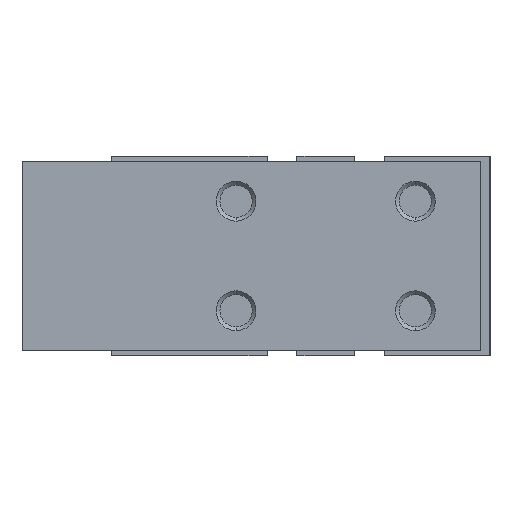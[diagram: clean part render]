
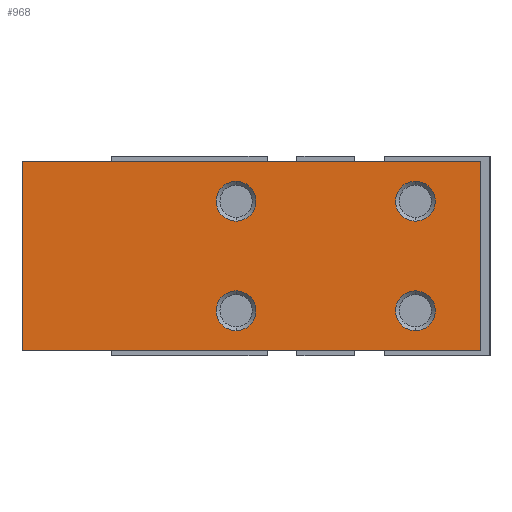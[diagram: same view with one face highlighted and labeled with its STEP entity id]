
A CAD part, left-side view. The second image highlights one B-rep face of the part: STEP entity #968.
In plain terms, the highlighted planar face has unit normal (-1, 0, 0).
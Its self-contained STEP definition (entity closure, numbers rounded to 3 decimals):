
#10 = EDGE_CURVE ( 'NONE', #1490, #4386, #1829, .T. ) ;
#39 = AXIS2_PLACEMENT_3D ( 'NONE', #1302, #2230, #4633 ) ;
#158 = DIRECTION ( 'NONE',  ( -1., 0., 0. ) ) ;
#179 = CARTESIAN_POINT ( 'NONE',  ( -11.5, -15.5, 9.5 ) ) ;
#181 = DIRECTION ( 'NONE',  ( -1., 0., 0. ) ) ;
#219 = EDGE_CURVE ( 'NONE', #2130, #852, #3649, .T. ) ;
#466 = ORIENTED_EDGE ( 'NONE', *, *, #10, .F. ) ;
#548 = CARTESIAN_POINT ( 'NONE',  ( -11.5, 30.5, 9.5 ) ) ;
#583 = CARTESIAN_POINT ( 'NONE',  ( -11.5, 9., 5.5 ) ) ;
#585 = EDGE_CURVE ( 'NONE', #1418, #1826, #5496, .T. ) ;
#652 = DIRECTION ( 'NONE',  ( 0., -1., 0. ) ) ;
#685 = DIRECTION ( 'NONE',  ( 0., 1., 0. ) ) ;
#687 = EDGE_LOOP ( 'NONE', ( #3642, #1537 ) ) ;
#751 = FACE_BOUND ( 'NONE', #4901, .T. ) ;
#852 = VERTEX_POINT ( 'NONE', #2371 ) ;
#857 = ORIENTED_EDGE ( 'NONE', *, *, #4286, .F. ) ;
#912 = DIRECTION ( 'NONE',  ( -1., 0., 0. ) ) ;
#959 = EDGE_CURVE ( 'NONE', #1295, #4127, #4053, .T. ) ;
#968 = ADVANCED_FACE ( 'NONE', ( #3417, #4806, #751, #3931, #1106 ), #1560, .F. ) ;
#1003 = EDGE_CURVE ( 'NONE', #5962, #4425, #5328, .T. ) ;
#1106 = FACE_BOUND ( 'NONE', #3854, .T. ) ;
#1154 = CARTESIAN_POINT ( 'NONE',  ( -11.5, 9., 7.5 ) ) ;
#1203 = CARTESIAN_POINT ( 'NONE',  ( -11.5, 30.5, -9.5 ) ) ;
#1212 = CARTESIAN_POINT ( 'NONE',  ( -11.5, -9., -5.5 ) ) ;
#1278 = VECTOR ( 'NONE', #652, 1000. ) ;
#1295 = VERTEX_POINT ( 'NONE', #1447 ) ;
#1301 = EDGE_CURVE ( 'NONE', #2100, #5962, #4671, .T. ) ;
#1302 = CARTESIAN_POINT ( 'NONE',  ( -11.5, -9., 5.5 ) ) ;
#1418 = VERTEX_POINT ( 'NONE', #5310 ) ;
#1439 = CARTESIAN_POINT ( 'NONE',  ( -11.5, -9., -3.5 ) ) ;
#1447 = CARTESIAN_POINT ( 'NONE',  ( -11.5, 9., -7.5 ) ) ;
#1449 = CARTESIAN_POINT ( 'NONE',  ( -11.5, 9., 5.5 ) ) ;
#1490 = VERTEX_POINT ( 'NONE', #5365 ) ;
#1537 = ORIENTED_EDGE ( 'NONE', *, *, #959, .F. ) ;
#1560 = PLANE ( 'NONE',  #5704 ) ;
#1711 = ORIENTED_EDGE ( 'NONE', *, *, #1003, .T. ) ;
#1826 = VERTEX_POINT ( 'NONE', #1154 ) ;
#1829 = CIRCLE ( 'NONE', #2699, 2. ) ;
#1888 = CARTESIAN_POINT ( 'NONE',  ( -11.5, 9., -5.5 ) ) ;
#1898 = CARTESIAN_POINT ( 'NONE',  ( -11.5, 30.5, 9.5 ) ) ;
#2042 = VECTOR ( 'NONE', #5455, 1000. ) ;
#2100 = VERTEX_POINT ( 'NONE', #1898 ) ;
#2102 = VERTEX_POINT ( 'NONE', #5541 ) ;
#2130 = VERTEX_POINT ( 'NONE', #5084 ) ;
#2136 = DIRECTION ( 'NONE',  ( -1., 0., 0. ) ) ;
#2230 = DIRECTION ( 'NONE',  ( -1., 0., 0. ) ) ;
#2341 = DIRECTION ( 'NONE',  ( -1., 0., 0. ) ) ;
#2356 = ORIENTED_EDGE ( 'NONE', *, *, #5462, .F. ) ;
#2371 = CARTESIAN_POINT ( 'NONE',  ( -11.5, -9., 3.5 ) ) ;
#2416 = EDGE_LOOP ( 'NONE', ( #1711, #2356, #857, #4237 ) ) ;
#2699 = AXIS2_PLACEMENT_3D ( 'NONE', #1212, #181, #5246 ) ;
#2815 = DIRECTION ( 'NONE',  ( 0., 0., 1. ) ) ;
#2880 = DIRECTION ( 'NONE',  ( 0., 0., -1. ) ) ;
#2889 = DIRECTION ( 'NONE',  ( 0., 0., 1. ) ) ;
#3027 = EDGE_CURVE ( 'NONE', #852, #2130, #5340, .T. ) ;
#3031 = ORIENTED_EDGE ( 'NONE', *, *, #3027, .F. ) ;
#3077 = AXIS2_PLACEMENT_3D ( 'NONE', #4975, #4086, #4912 ) ;
#3384 = CARTESIAN_POINT ( 'NONE',  ( -11.5, 30.5, 9.5 ) ) ;
#3410 = AXIS2_PLACEMENT_3D ( 'NONE', #1888, #2341, #2815 ) ;
#3417 = FACE_OUTER_BOUND ( 'NONE', #2416, .T. ) ;
#3425 = CARTESIAN_POINT ( 'NONE',  ( -11.5, -15.5, -9.5 ) ) ;
#3565 = AXIS2_PLACEMENT_3D ( 'NONE', #5217, #158, #2889 ) ;
#3607 = EDGE_CURVE ( 'NONE', #4127, #1295, #5631, .T. ) ;
#3642 = ORIENTED_EDGE ( 'NONE', *, *, #3607, .F. ) ;
#3649 = CIRCLE ( 'NONE', #3077, 2. ) ;
#3749 = CIRCLE ( 'NONE', #3565, 2. ) ;
#3786 = LINE ( 'NONE', #179, #5019 ) ;
#3854 = EDGE_LOOP ( 'NONE', ( #5871, #5437 ) ) ;
#3931 = FACE_BOUND ( 'NONE', #4069, .T. ) ;
#4053 = CIRCLE ( 'NONE', #4146, 2. ) ;
#4060 = VECTOR ( 'NONE', #5370, 1000. ) ;
#4069 = EDGE_LOOP ( 'NONE', ( #4521, #466 ) ) ;
#4086 = DIRECTION ( 'NONE',  ( -1., 0., 0. ) ) ;
#4127 = VERTEX_POINT ( 'NONE', #5775 ) ;
#4146 = AXIS2_PLACEMENT_3D ( 'NONE', #5722, #2136, #4391 ) ;
#4237 = ORIENTED_EDGE ( 'NONE', *, *, #1301, .T. ) ;
#4254 = ORIENTED_EDGE ( 'NONE', *, *, #219, .F. ) ;
#4286 = EDGE_CURVE ( 'NONE', #2100, #2102, #4601, .T. ) ;
#4290 = DIRECTION ( 'NONE',  ( 0., 0., 1. ) ) ;
#4386 = VERTEX_POINT ( 'NONE', #1439 ) ;
#4391 = DIRECTION ( 'NONE',  ( 0., 0., 1. ) ) ;
#4425 = VERTEX_POINT ( 'NONE', #3425 ) ;
#4521 = ORIENTED_EDGE ( 'NONE', *, *, #5000, .F. ) ;
#4601 = LINE ( 'NONE', #5920, #2042 ) ;
#4633 = DIRECTION ( 'NONE',  ( 0., 0., 1. ) ) ;
#4671 = LINE ( 'NONE', #548, #4060 ) ;
#4806 = FACE_BOUND ( 'NONE', #687, .T. ) ;
#4871 = EDGE_CURVE ( 'NONE', #1826, #1418, #5886, .T. ) ;
#4901 = EDGE_LOOP ( 'NONE', ( #4254, #3031 ) ) ;
#4912 = DIRECTION ( 'NONE',  ( 0., 0., 1. ) ) ;
#4926 = AXIS2_PLACEMENT_3D ( 'NONE', #583, #5261, #4290 ) ;
#4975 = CARTESIAN_POINT ( 'NONE',  ( -11.5, -9., 5.5 ) ) ;
#5000 = EDGE_CURVE ( 'NONE', #4386, #1490, #3749, .T. ) ;
#5019 = VECTOR ( 'NONE', #2880, 1000. ) ;
#5084 = CARTESIAN_POINT ( 'NONE',  ( -11.5, -9., 7.5 ) ) ;
#5090 = DIRECTION ( 'NONE',  ( 0., 0., 1. ) ) ;
#5171 = CARTESIAN_POINT ( 'NONE',  ( -11.5, 30.5, -9.5 ) ) ;
#5217 = CARTESIAN_POINT ( 'NONE',  ( -11.5, -9., -5.5 ) ) ;
#5246 = DIRECTION ( 'NONE',  ( 0., 0., 1. ) ) ;
#5261 = DIRECTION ( 'NONE',  ( -1., 0., 0. ) ) ;
#5310 = CARTESIAN_POINT ( 'NONE',  ( -11.5, 9., 3.5 ) ) ;
#5328 = LINE ( 'NONE', #1203, #1278 ) ;
#5340 = CIRCLE ( 'NONE', #39, 2. ) ;
#5365 = CARTESIAN_POINT ( 'NONE',  ( -11.5, -9., -7.5 ) ) ;
#5370 = DIRECTION ( 'NONE',  ( 0., 0., -1. ) ) ;
#5437 = ORIENTED_EDGE ( 'NONE', *, *, #585, .F. ) ;
#5455 = DIRECTION ( 'NONE',  ( 0., -1., 0. ) ) ;
#5462 = EDGE_CURVE ( 'NONE', #2102, #4425, #3786, .T. ) ;
#5496 = CIRCLE ( 'NONE', #4926, 2. ) ;
#5541 = CARTESIAN_POINT ( 'NONE',  ( -11.5, -15.5, 9.5 ) ) ;
#5631 = CIRCLE ( 'NONE', #3410, 2. ) ;
#5704 = AXIS2_PLACEMENT_3D ( 'NONE', #3384, #5782, #685 ) ;
#5722 = CARTESIAN_POINT ( 'NONE',  ( -11.5, 9., -5.5 ) ) ;
#5775 = CARTESIAN_POINT ( 'NONE',  ( -11.5, 9., -3.5 ) ) ;
#5782 = DIRECTION ( 'NONE',  ( 1., 0., 0. ) ) ;
#5796 = AXIS2_PLACEMENT_3D ( 'NONE', #1449, #912, #5090 ) ;
#5871 = ORIENTED_EDGE ( 'NONE', *, *, #4871, .F. ) ;
#5886 = CIRCLE ( 'NONE', #5796, 2. ) ;
#5920 = CARTESIAN_POINT ( 'NONE',  ( -11.5, 30.5, 9.5 ) ) ;
#5962 = VERTEX_POINT ( 'NONE', #5171 ) ;
